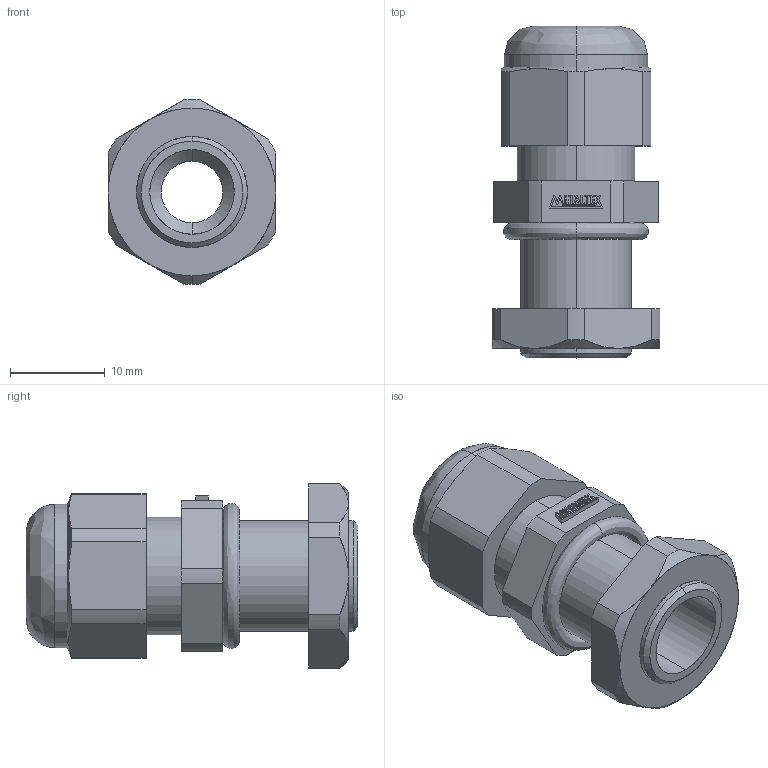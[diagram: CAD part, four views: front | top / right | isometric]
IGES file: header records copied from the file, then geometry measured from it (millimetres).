
Start section: SolidWorks IGES file using analytic representation for surfaces
Global section: file name: D:\X - Arquivos\PROEX\Empresas\P11 - METALTEX\01 - Produtos\IGES\Terceira remessa\Etapa 2\CH-M12L.IGS; native system: SolidWorks 2012; preprocessor: SolidWorks 2012; author: Usuario; date: 180207.124758; units: millimetre
Bounding box: 17.7 x 35 x 19.5 mm (x, y, z)
Surface area: 3436.5 mm2 (no closed solid volume)
Topology: 0 solids, 0 shells, 174 faces, 1289 edges, 1289 vertices
Faces by surface type: bspline 125, revolution 49
